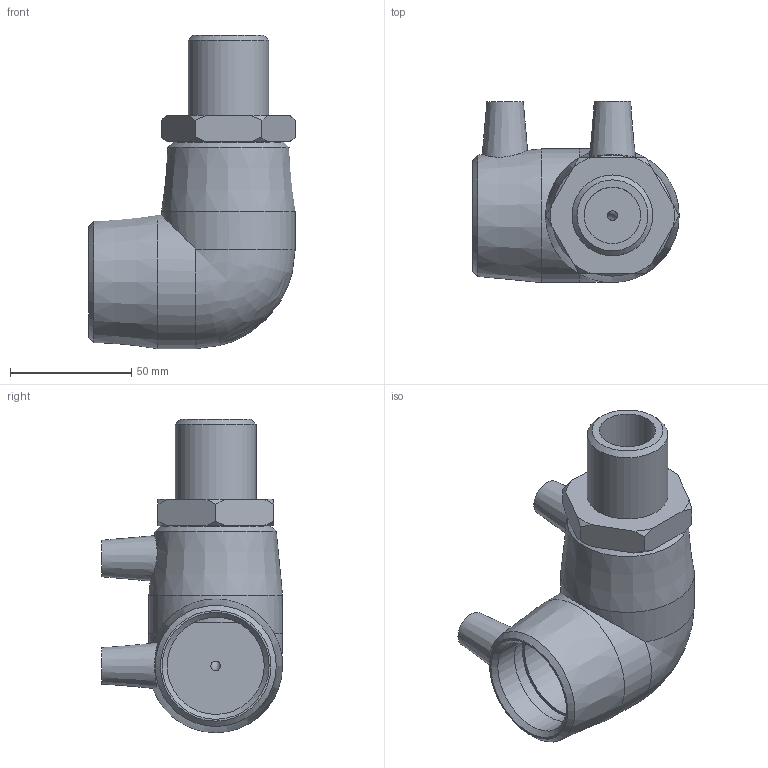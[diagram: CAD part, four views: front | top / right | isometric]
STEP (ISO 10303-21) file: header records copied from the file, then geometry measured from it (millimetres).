
FILE_DESCRIPTION(/* description */ ('PE Male Transition Elbow 90° 40x 1'),/* implementation_level */ '2;1');
FILE_NAME(/* name */ 'C:\Dropbox\KIMPROJECTS-Inventor\99-16-3568-Processing\ElectroFusion Fittings\21.04\497504\497504040010.ipt.stp',/* time_stamp */ '2019-04-21T15:13:00+03:00',/* author */ ('KIM'),/* organization */ (''),/* preprocessor_version */ 'ST-DEVELOPER v15.6',/* originating_system */ 'Autodesk Inventor 2015',/* authorisation */ '');
FILE_SCHEMA (('AUTOMOTIVE_DESIGN { 1 0 10303 214 3 1 1 }'));
Length unit declared in the file: millimetre
Products named in the file (1): 497504040010
Bounding box: 85 x 74.5 x 129 mm (x, y, z)
Volume: 225448.7 mm3; surface area: 53731.7 mm2
Topology: 2 solids, 2 shells, 60 faces, 134 edges, 86 vertices
Faces by surface type: plane 22, cone 22, cylinder 14, bspline 1, torus 1
Full cylindrical faces by diameter (mm): 4 x3, 10 x2, 23.274 x1, 30 x1, 33.249 x1, 40 x4, 55 x2
Entity records: 1529 total; most frequent: CARTESIAN_POINT 368, DIRECTION 242, ORIENTED_EDGE 192, AXIS2_PLACEMENT_3D 112, EDGE_LOOP 101, EDGE_CURVE 96, VERTEX_POINT 77, FACE_OUTER_BOUND 60
